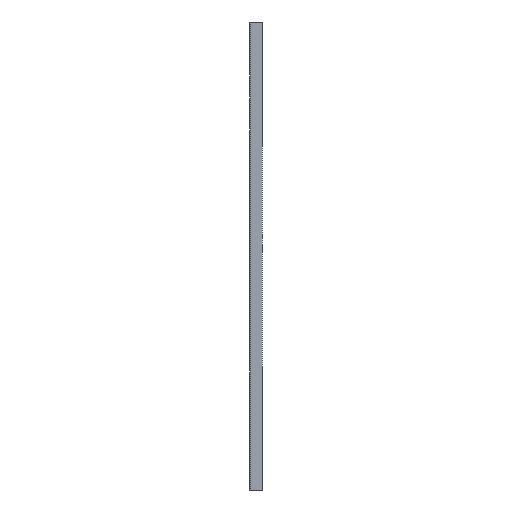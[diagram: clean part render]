
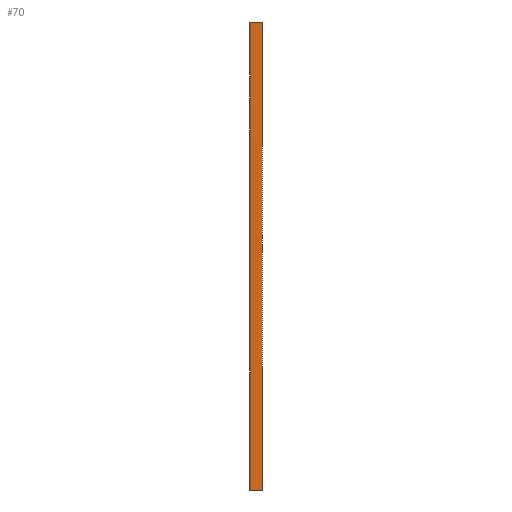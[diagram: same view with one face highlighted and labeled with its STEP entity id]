
A CAD part, left-side view. The second image highlights one B-rep face of the part: STEP entity #70.
In plain terms, the highlighted planar face has unit normal (-1, 0, 0).
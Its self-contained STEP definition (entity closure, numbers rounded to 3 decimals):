
#52 = LINE ( 'NONE', #756, #123 ) ;
#58 = EDGE_CURVE ( 'NONE', #68, #1056, #52, .T. ) ;
#68 = VERTEX_POINT ( 'NONE', #600 ) ;
#70 = ADVANCED_FACE ( 'NONE', ( #1100 ), #945, .T. ) ;
#94 = DIRECTION ( 'NONE',  ( 0., 0., 1. ) ) ;
#123 = VECTOR ( 'NONE', #856, 1000. ) ;
#178 = AXIS2_PLACEMENT_3D ( 'NONE', #750, #670, #771 ) ;
#239 = CARTESIAN_POINT ( 'NONE',  ( -428., 0., -594. ) ) ;
#279 = VERTEX_POINT ( 'NONE', #552 ) ;
#289 = LINE ( 'NONE', #295, #903 ) ;
#295 = CARTESIAN_POINT ( 'NONE',  ( -428., 0., -594. ) ) ;
#375 = DIRECTION ( 'NONE',  ( 0., 1., 0. ) ) ;
#424 = EDGE_CURVE ( 'NONE', #1056, #950, #289, .T. ) ;
#445 = CARTESIAN_POINT ( 'NONE',  ( -428., -17., 40. ) ) ;
#486 = CARTESIAN_POINT ( 'NONE',  ( -428., 0., 40. ) ) ;
#552 = CARTESIAN_POINT ( 'NONE',  ( -428., -17., 40. ) ) ;
#582 = VECTOR ( 'NONE', #375, 1000. ) ;
#600 = CARTESIAN_POINT ( 'NONE',  ( -428., -17., -594. ) ) ;
#670 = DIRECTION ( 'NONE',  ( -1., 0., 0. ) ) ;
#697 = ORIENTED_EDGE ( 'NONE', *, *, #58, .F. ) ;
#750 = CARTESIAN_POINT ( 'NONE',  ( -428., -17., -594. ) ) ;
#756 = CARTESIAN_POINT ( 'NONE',  ( -428., -17., -594. ) ) ;
#771 = DIRECTION ( 'NONE',  ( 0., 0., 1. ) ) ;
#781 = EDGE_CURVE ( 'NONE', #279, #950, #899, .T. ) ;
#845 = ORIENTED_EDGE ( 'NONE', *, *, #424, .F. ) ;
#856 = DIRECTION ( 'NONE',  ( 0., 1., 0. ) ) ;
#893 = DIRECTION ( 'NONE',  ( 0., 0., 1. ) ) ;
#899 = LINE ( 'NONE', #445, #582 ) ;
#903 = VECTOR ( 'NONE', #893, 1000. ) ;
#906 = VECTOR ( 'NONE', #94, 1000. ) ;
#945 = PLANE ( 'NONE',  #178 ) ;
#950 = VERTEX_POINT ( 'NONE', #486 ) ;
#1045 = EDGE_LOOP ( 'NONE', ( #845, #697, #1098, #1091 ) ) ;
#1056 = VERTEX_POINT ( 'NONE', #239 ) ;
#1057 = CARTESIAN_POINT ( 'NONE',  ( -428., -17., -594. ) ) ;
#1072 = LINE ( 'NONE', #1057, #906 ) ;
#1091 = ORIENTED_EDGE ( 'NONE', *, *, #781, .T. ) ;
#1098 = ORIENTED_EDGE ( 'NONE', *, *, #1111, .T. ) ;
#1100 = FACE_OUTER_BOUND ( 'NONE', #1045, .T. ) ;
#1111 = EDGE_CURVE ( 'NONE', #68, #279, #1072, .T. ) ;
